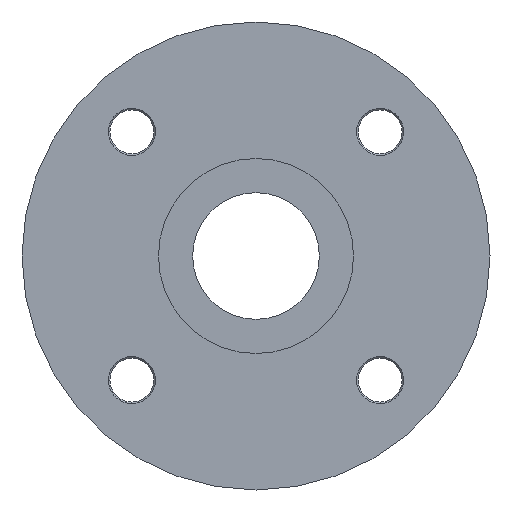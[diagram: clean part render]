
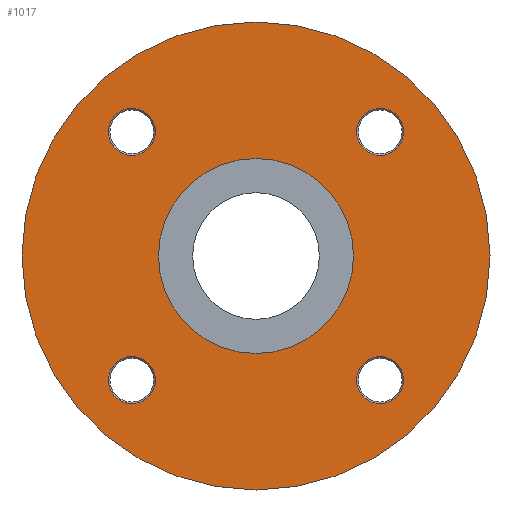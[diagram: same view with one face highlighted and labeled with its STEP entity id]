
A CAD part, front view. The second image highlights one B-rep face of the part: STEP entity #1017.
In plain terms, the highlighted planar face has unit normal (0, -1, 0).
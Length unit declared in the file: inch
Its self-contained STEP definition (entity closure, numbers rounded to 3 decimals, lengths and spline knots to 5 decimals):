
#1 = FACE_BOUND ( 'NONE', #142, .T. ) ;
#3 = AXIS2_PLACEMENT_3D ( 'NONE', #3048, #3052, #3053 ) ;
#7 = AXIS2_PLACEMENT_3D ( 'NONE', #2556, #2565, #2566 ) ;
#9 = FACE_BOUND ( 'NONE', #200, .T. ) ;
#85 = ORIENTED_EDGE ( 'NONE', *, *, #498, .T. ) ;
#142 = EDGE_LOOP ( 'NONE', ( #1906, #1901 ) ) ;
#145 = EDGE_LOOP ( 'NONE', ( #1902, #1893 ) ) ;
#152 = EDGE_LOOP ( 'NONE', ( #1924, #1950 ) ) ;
#153 = EDGE_LOOP ( 'NONE', ( #1931, #85 ) ) ;
#179 = EDGE_LOOP ( 'NONE', ( #1940, #1898 ) ) ;
#200 = EDGE_LOOP ( 'NONE', ( #1897, #1913 ) ) ;
#288 = VERTEX_POINT ( 'NONE', #539 ) ;
#291 = VERTEX_POINT ( 'NONE', #555 ) ;
#303 = VERTEX_POINT ( 'NONE', #579 ) ;
#306 = VERTEX_POINT ( 'NONE', #601 ) ;
#307 = VERTEX_POINT ( 'NONE', #595 ) ;
#340 = VERTEX_POINT ( 'NONE', #617 ) ;
#341 = VERTEX_POINT ( 'NONE', #605 ) ;
#346 = VERTEX_POINT ( 'NONE', #585 ) ;
#351 = VERTEX_POINT ( 'NONE', #590 ) ;
#352 = VERTEX_POINT ( 'NONE', #591 ) ;
#415 = EDGE_CURVE ( 'NONE', #352, #351, #1853, .T. ) ;
#435 = EDGE_CURVE ( 'NONE', #306, #307, #1882, .T. ) ;
#451 = EDGE_CURVE ( 'NONE', #340, #341, #2875, .T. ) ;
#463 = EDGE_CURVE ( 'NONE', #303, #346, #2893, .T. ) ;
#467 = EDGE_CURVE ( 'NONE', #291, #288, #2900, .T. ) ;
#472 = EDGE_CURVE ( 'NONE', #288, #291, #2699, .T. ) ;
#497 = EDGE_CURVE ( 'NONE', #572, #559, #2732, .T. ) ;
#498 = EDGE_CURVE ( 'NONE', #341, #340, #2730, .T. ) ;
#505 = EDGE_CURVE ( 'NONE', #559, #572, #2718, .T. ) ;
#506 = EDGE_CURVE ( 'NONE', #307, #306, #2734, .T. ) ;
#510 = EDGE_CURVE ( 'NONE', #346, #303, #2720, .T. ) ;
#527 = EDGE_CURVE ( 'NONE', #351, #352, #2753, .T. ) ;
#539 = CARTESIAN_POINT ( 'NONE',  ( 0., 0., -0.625 ) ) ;
#555 = CARTESIAN_POINT ( 'NONE',  ( 0., 0., 0.625 ) ) ;
#559 = VERTEX_POINT ( 'NONE', #808 ) ;
#572 = VERTEX_POINT ( 'NONE', #801 ) ;
#579 = CARTESIAN_POINT ( 'NONE',  ( 0.7955, 0., -0.946 ) ) ;
#585 = CARTESIAN_POINT ( 'NONE',  ( 0.7955, 0., -0.645 ) ) ;
#590 = CARTESIAN_POINT ( 'NONE',  ( -0.7955, 0., -0.645 ) ) ;
#591 = CARTESIAN_POINT ( 'NONE',  ( -0.7955, 0., -0.946 ) ) ;
#595 = CARTESIAN_POINT ( 'NONE',  ( 0.7955, 0., 0.946 ) ) ;
#601 = CARTESIAN_POINT ( 'NONE',  ( 0.7955, 0., 0.645 ) ) ;
#605 = CARTESIAN_POINT ( 'NONE',  ( -0.7955, 0., 0.946 ) ) ;
#617 = CARTESIAN_POINT ( 'NONE',  ( -0.7955, 0., 0.645 ) ) ;
#796 = AXIS2_PLACEMENT_3D ( 'NONE', #2932, #2909, #2910 ) ;
#801 = CARTESIAN_POINT ( 'NONE',  ( 0., 0., 1.5 ) ) ;
#808 = CARTESIAN_POINT ( 'NONE',  ( 0., 0., -1.5 ) ) ;
#839 = DIRECTION ( 'NONE',  ( 0., 0., 1. ) ) ;
#840 = DIRECTION ( 'NONE',  ( 0., 1., 0. ) ) ;
#841 = CARTESIAN_POINT ( 'NONE',  ( 0.7955, 0., -0.7955 ) ) ;
#902 = CARTESIAN_POINT ( 'NONE',  ( -0.7955, 0., -0.7955 ) ) ;
#909 = DIRECTION ( 'NONE',  ( 0., 0., 1. ) ) ;
#913 = DIRECTION ( 'NONE',  ( 0., 1., 0. ) ) ;
#1017 = ADVANCED_FACE ( 'NONE', ( #2314, #2315, #9, #1, #2151, #2150 ), #1598, .F. ) ;
#1598 = PLANE ( 'NONE',  #1765 ) ;
#1602 = CARTESIAN_POINT ( 'NONE',  ( 0., 0., 0. ) ) ;
#1603 = DIRECTION ( 'NONE',  ( 0., 1., 0. ) ) ;
#1604 = DIRECTION ( 'NONE',  ( 0., 0., 1. ) ) ;
#1654 = AXIS2_PLACEMENT_3D ( 'NONE', #3036, #3037, #3044 ) ;
#1662 = AXIS2_PLACEMENT_3D ( 'NONE', #902, #913, #909 ) ;
#1666 = AXIS2_PLACEMENT_3D ( 'NONE', #841, #840, #839 ) ;
#1675 = AXIS2_PLACEMENT_3D ( 'NONE', #3017, #3013, #3011 ) ;
#1678 = AXIS2_PLACEMENT_3D ( 'NONE', #3024, #3029, #3025 ) ;
#1714 = AXIS2_PLACEMENT_3D ( 'NONE', #3035, #3033, #3046 ) ;
#1765 = AXIS2_PLACEMENT_3D ( 'NONE', #1602, #1603, #1604 ) ;
#1853 = CIRCLE ( 'NONE', #2322, 0.1505 ) ;
#1882 = CIRCLE ( 'NONE', #2321, 0.1505 ) ;
#1893 = ORIENTED_EDGE ( 'NONE', *, *, #497, .F. ) ;
#1897 = ORIENTED_EDGE ( 'NONE', *, *, #415, .T. ) ;
#1898 = ORIENTED_EDGE ( 'NONE', *, *, #467, .F. ) ;
#1901 = ORIENTED_EDGE ( 'NONE', *, *, #510, .T. ) ;
#1902 = ORIENTED_EDGE ( 'NONE', *, *, #505, .F. ) ;
#1906 = ORIENTED_EDGE ( 'NONE', *, *, #463, .T. ) ;
#1913 = ORIENTED_EDGE ( 'NONE', *, *, #527, .T. ) ;
#1924 = ORIENTED_EDGE ( 'NONE', *, *, #435, .T. ) ;
#1931 = ORIENTED_EDGE ( 'NONE', *, *, #451, .T. ) ;
#1940 = ORIENTED_EDGE ( 'NONE', *, *, #472, .F. ) ;
#1950 = ORIENTED_EDGE ( 'NONE', *, *, #506, .T. ) ;
#2150 = FACE_OUTER_BOUND ( 'NONE', #145, .T. ) ;
#2151 = FACE_BOUND ( 'NONE', #179, .T. ) ;
#2314 = FACE_BOUND ( 'NONE', #152, .T. ) ;
#2315 = FACE_BOUND ( 'NONE', #153, .T. ) ;
#2321 = AXIS2_PLACEMENT_3D ( 'NONE', #2501, #2523, #2510 ) ;
#2322 = AXIS2_PLACEMENT_3D ( 'NONE', #2486, #2482, #2481 ) ;
#2340 = AXIS2_PLACEMENT_3D ( 'NONE', #2542, #2543, #2546 ) ;
#2481 = DIRECTION ( 'NONE',  ( 0., 0., 1. ) ) ;
#2482 = DIRECTION ( 'NONE',  ( 0., 1., 0. ) ) ;
#2486 = CARTESIAN_POINT ( 'NONE',  ( -0.7955, 0., -0.7955 ) ) ;
#2501 = CARTESIAN_POINT ( 'NONE',  ( 0.7955, 0., 0.7955 ) ) ;
#2510 = DIRECTION ( 'NONE',  ( 0., 0., 1. ) ) ;
#2523 = DIRECTION ( 'NONE',  ( 0., 1., 0. ) ) ;
#2542 = CARTESIAN_POINT ( 'NONE',  ( -0.7955, 0., 0.7955 ) ) ;
#2543 = DIRECTION ( 'NONE',  ( 0., 1., 0. ) ) ;
#2546 = DIRECTION ( 'NONE',  ( 0., 0., 1. ) ) ;
#2556 = CARTESIAN_POINT ( 'NONE',  ( 0.7955, 0., -0.7955 ) ) ;
#2565 = DIRECTION ( 'NONE',  ( 0., 1., 0. ) ) ;
#2566 = DIRECTION ( 'NONE',  ( 0., 0., 1. ) ) ;
#2699 = CIRCLE ( 'NONE', #796, 0.625 ) ;
#2718 = CIRCLE ( 'NONE', #1714, 1.5 ) ;
#2720 = CIRCLE ( 'NONE', #1666, 0.1505 ) ;
#2730 = CIRCLE ( 'NONE', #1675, 0.1505 ) ;
#2732 = CIRCLE ( 'NONE', #1678, 1.5 ) ;
#2734 = CIRCLE ( 'NONE', #1654, 0.1505 ) ;
#2753 = CIRCLE ( 'NONE', #1662, 0.1505 ) ;
#2875 = CIRCLE ( 'NONE', #2340, 0.1505 ) ;
#2893 = CIRCLE ( 'NONE', #7, 0.1505 ) ;
#2900 = CIRCLE ( 'NONE', #3, 0.625 ) ;
#2909 = DIRECTION ( 'NONE',  ( 0., -1., 0. ) ) ;
#2910 = DIRECTION ( 'NONE',  ( 0., 0., -1. ) ) ;
#2932 = CARTESIAN_POINT ( 'NONE',  ( 0., 0., 0. ) ) ;
#3011 = DIRECTION ( 'NONE',  ( 0., 0., 1. ) ) ;
#3013 = DIRECTION ( 'NONE',  ( 0., 1., 0. ) ) ;
#3017 = CARTESIAN_POINT ( 'NONE',  ( -0.7955, 0., 0.7955 ) ) ;
#3024 = CARTESIAN_POINT ( 'NONE',  ( 0., 0., 0. ) ) ;
#3025 = DIRECTION ( 'NONE',  ( 0., 0., 1. ) ) ;
#3029 = DIRECTION ( 'NONE',  ( 0., 1., 0. ) ) ;
#3033 = DIRECTION ( 'NONE',  ( 0., 1., 0. ) ) ;
#3035 = CARTESIAN_POINT ( 'NONE',  ( 0., 0., 0. ) ) ;
#3036 = CARTESIAN_POINT ( 'NONE',  ( 0.7955, 0., 0.7955 ) ) ;
#3037 = DIRECTION ( 'NONE',  ( 0., 1., 0. ) ) ;
#3044 = DIRECTION ( 'NONE',  ( 0., 0., 1. ) ) ;
#3046 = DIRECTION ( 'NONE',  ( 0., 0., 1. ) ) ;
#3048 = CARTESIAN_POINT ( 'NONE',  ( 0., 0., 0. ) ) ;
#3052 = DIRECTION ( 'NONE',  ( 0., -1., 0. ) ) ;
#3053 = DIRECTION ( 'NONE',  ( 0., 0., -1. ) ) ;
